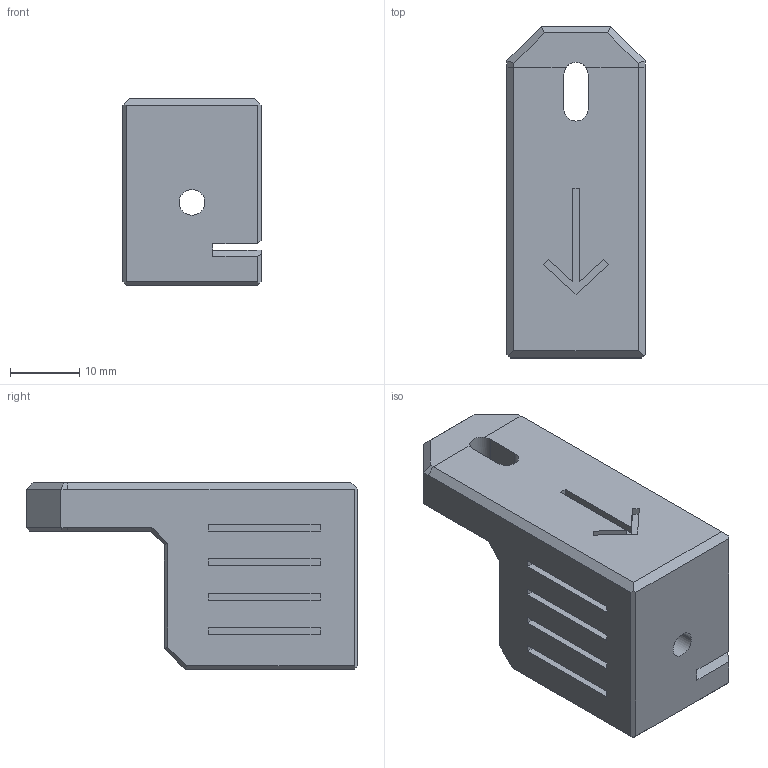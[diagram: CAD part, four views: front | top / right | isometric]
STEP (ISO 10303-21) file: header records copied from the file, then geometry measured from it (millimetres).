
FILE_DESCRIPTION(('CATIA V5 STEP Exchange'),'2;1');
FILE_NAME('D:\_이전 노트북\Cremaker모델링\Cremaker_profile-Metal(5차)-(Final)\(1.8)bed-belt-block-TensionSide.stp','2020-10-23T05:15:52+00:00',('none'),('none'),'CATIA Version 5 Release 20 GA (IN-10)','CATIA V5 STEP AP203','none');
FILE_SCHEMA(('CONFIG_CONTROL_DESIGN'));
Length unit declared in the file: millimetre
Products named in the file (1): (1.8)bed-belt-block-TensionSide
Bounding box: 20 x 48 x 27 mm (x, y, z)
Volume: 16465.9 mm3; surface area: 5624.4 mm2
Topology: 1 solids, 1 shells, 104 faces, 269 edges, 172 vertices
Faces by surface type: plane 82, extrusion 14, cylinder 8
Entity records: 4045 total; most frequent: CARTESIAN_POINT 1648, ORIENTED_EDGE 538, DIRECTION 371, EDGE_CURVE 269, VECTOR 203, LINE 189, VERTEX_POINT 172, EDGE_LOOP 113
